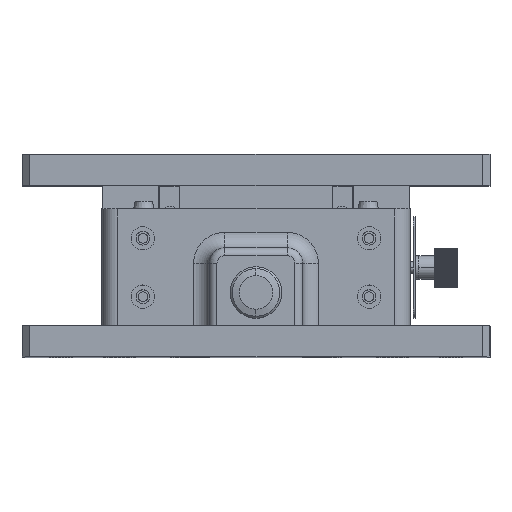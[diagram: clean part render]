
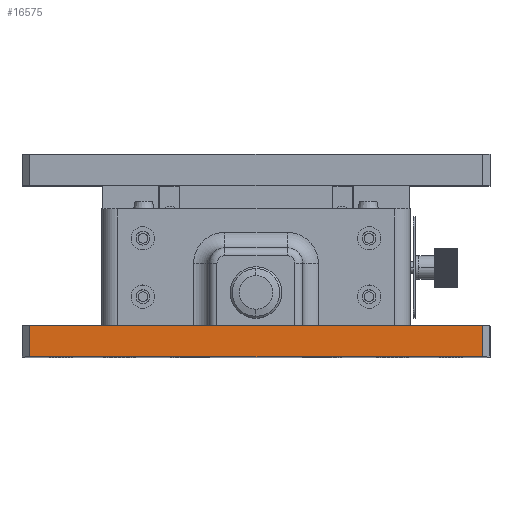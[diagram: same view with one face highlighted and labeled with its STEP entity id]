
A CAD part, top view. The second image highlights one B-rep face of the part: STEP entity #16575.
In plain terms, the highlighted planar face has unit normal (0, 0, 1).
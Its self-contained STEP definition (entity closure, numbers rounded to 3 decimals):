
#373 = FACE_OUTER_BOUND ( 'NONE', #1701, .T. ) ;
#734 = EDGE_CURVE ( 'NONE', #3211, #15443, #2353, .T. ) ;
#843 = EDGE_CURVE ( 'NONE', #20571, #23435, #16276, .T. ) ;
#980 = CARTESIAN_POINT ( 'NONE',  ( -60., -4., 60. ) ) ;
#1058 = CARTESIAN_POINT ( 'NONE',  ( 58., -4., 60. ) ) ;
#1067 = DIRECTION ( 'NONE',  ( 1., 0., 0. ) ) ;
#1701 = EDGE_LOOP ( 'NONE', ( #12987, #18310, #3036, #7717 ) ) ;
#2127 = EDGE_CURVE ( 'NONE', #15443, #20571, #21462, .T. ) ;
#2353 = LINE ( 'NONE', #2617, #12653 ) ;
#2617 = CARTESIAN_POINT ( 'NONE',  ( 58., 4., 60. ) ) ;
#3036 = ORIENTED_EDGE ( 'NONE', *, *, #2127, .T. ) ;
#3040 = DIRECTION ( 'NONE',  ( 0., 0., 1. ) ) ;
#3211 = VERTEX_POINT ( 'NONE', #1058 ) ;
#4307 = DIRECTION ( 'NONE',  ( 1., 0., 0. ) ) ;
#4658 = DIRECTION ( 'NONE',  ( 0., 1., 0. ) ) ;
#7018 = EDGE_CURVE ( 'NONE', #23435, #3211, #12092, .T. ) ;
#7717 = ORIENTED_EDGE ( 'NONE', *, *, #843, .T. ) ;
#9249 = CARTESIAN_POINT ( 'NONE',  ( -58., -4., 60. ) ) ;
#10757 = PLANE ( 'NONE',  #25162 ) ;
#11058 = CARTESIAN_POINT ( 'NONE',  ( -60., 4., 60. ) ) ;
#12092 = LINE ( 'NONE', #980, #12988 ) ;
#12653 = VECTOR ( 'NONE', #4658, 1000. ) ;
#12987 = ORIENTED_EDGE ( 'NONE', *, *, #7018, .T. ) ;
#12988 = VECTOR ( 'NONE', #1067, 1000. ) ;
#15443 = VERTEX_POINT ( 'NONE', #24792 ) ;
#16276 = LINE ( 'NONE', #9249, #23023 ) ;
#16575 = ADVANCED_FACE ( 'NONE', ( #373 ), #10757, .T. ) ;
#18310 = ORIENTED_EDGE ( 'NONE', *, *, #734, .T. ) ;
#18516 = DIRECTION ( 'NONE',  ( -1., 0., 0. ) ) ;
#19909 = VECTOR ( 'NONE', #18516, 1000. ) ;
#20571 = VERTEX_POINT ( 'NONE', #23446 ) ;
#21462 = LINE ( 'NONE', #11058, #19909 ) ;
#22859 = DIRECTION ( 'NONE',  ( 0., -1., 0. ) ) ;
#23023 = VECTOR ( 'NONE', #22859, 1000. ) ;
#23036 = CARTESIAN_POINT ( 'NONE',  ( -58., -4., 60. ) ) ;
#23435 = VERTEX_POINT ( 'NONE', #23036 ) ;
#23446 = CARTESIAN_POINT ( 'NONE',  ( -58., 4., 60. ) ) ;
#24361 = CARTESIAN_POINT ( 'NONE',  ( 0., 0., 60. ) ) ;
#24792 = CARTESIAN_POINT ( 'NONE',  ( 58., 4., 60. ) ) ;
#25162 = AXIS2_PLACEMENT_3D ( 'NONE', #24361, #3040, #4307 ) ;
